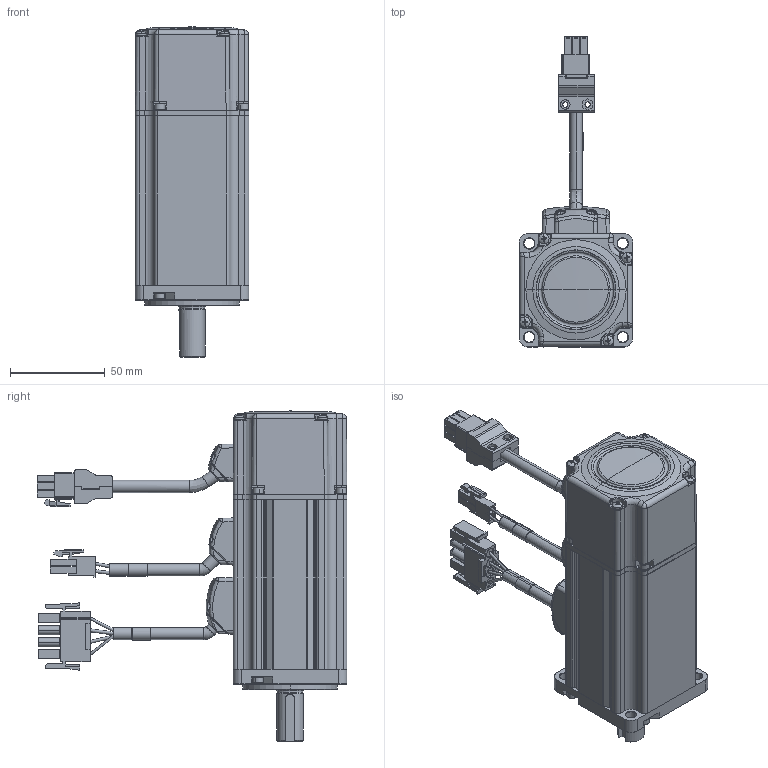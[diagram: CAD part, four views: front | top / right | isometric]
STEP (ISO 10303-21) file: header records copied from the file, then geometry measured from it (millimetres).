
FILE_DESCRIPTION (( 'STEP AP203' ), '1' );
FILE_NAME ('SM0601GE4-KCF-BNV.STEP', '2019-07-23T06:35:17', ( '' ), ( '' ), 'SwSTEP 2.0', 'SolidWorks 2014', '' );
FILE_SCHEMA (( 'CONFIG_CONTROL_DESIGN' ));
Length unit declared in the file: millimetre
Products named in the file (1): SM0601GE4-KCF-BNV
Bounding box: 60 x 163.72 x 174.5 mm (x, y, z)
Surface area: 70531 mm2 (no closed solid volume)
Topology: 0 solids, 51 shells, 1329 faces, 3862 edges, 2566 vertices
Faces by surface type: plane 609, cylinder 331, bspline 165, cone 127, torus 79, sphere 18
Entity records: 51304 total; most frequent: CARTESIAN_POINT 17142, DIRECTION 6959, ORIENTED_EDGE 6815, EDGE_CURVE 3858, VERTEX_POINT 2566, AXIS2_PLACEMENT_3D 2414, VECTOR 2131, LINE 2131
